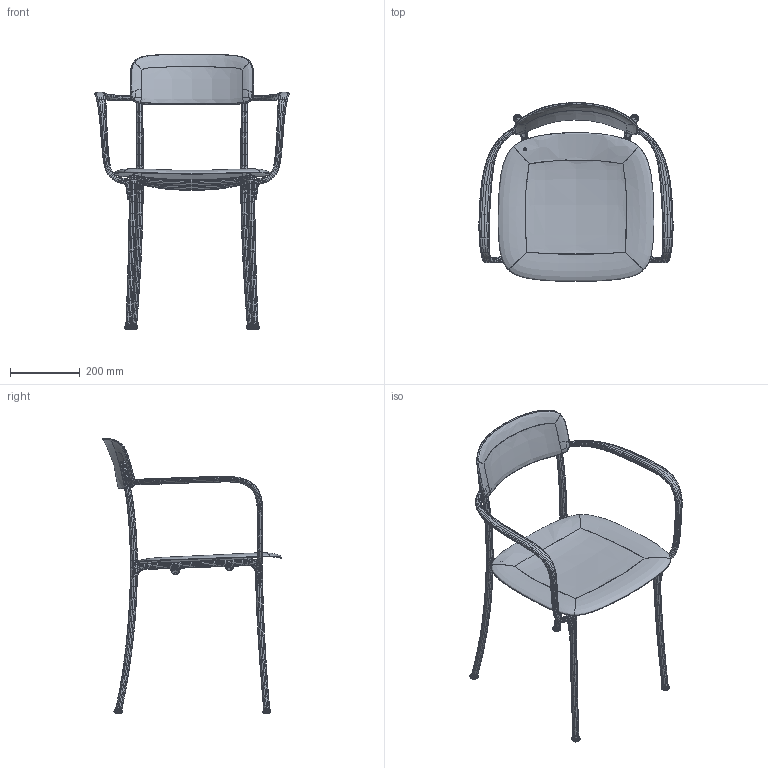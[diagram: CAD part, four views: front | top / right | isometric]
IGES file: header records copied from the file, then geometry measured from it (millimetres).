
Global section: file name: K:\Marketing\marketing\2D-3D PRODOTTI\2026_NUOVI PRODOTTI\Savoia\Savoia con braccioli\Savoia con braccioli.igs; native system: Rhinoceros ( Jun  9 2026 ); preprocessor: Trout Lake IGES 012 Jun  9 2026; date: 260825.124453; units: millimetre
Bounding box: 558.57 x 513.67 x 791.37 mm (x, y, z)
Surface area: 815785.3 mm2 (no closed solid volume)
Topology: 0 solids, 0 shells, 4646 faces, 28113 edges, 27897 vertices
Faces by surface type: bspline 4646
